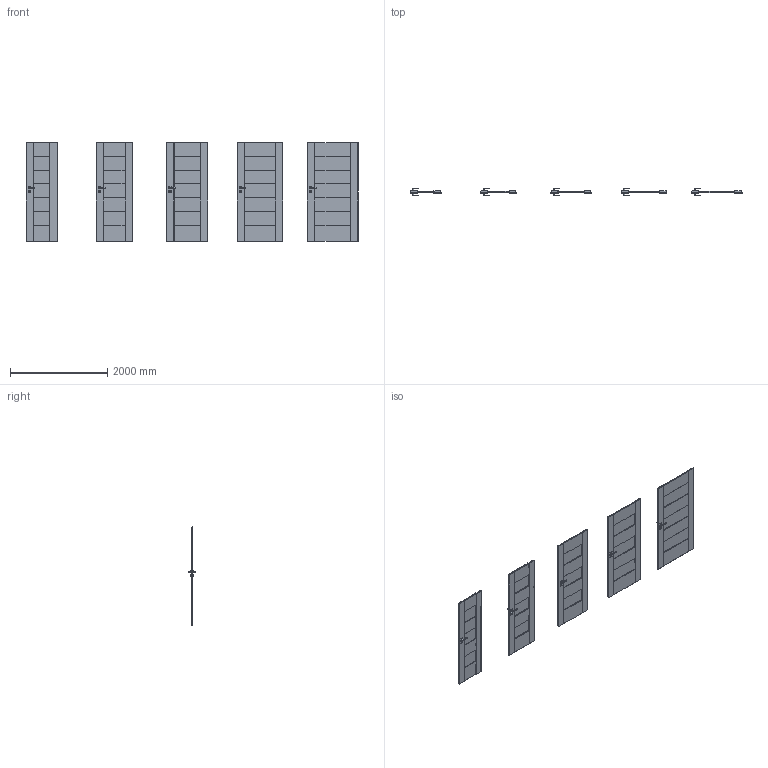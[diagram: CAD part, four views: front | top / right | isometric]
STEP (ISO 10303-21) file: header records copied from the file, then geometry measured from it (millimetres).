
FILE_DESCRIPTION(/* description */ (''),/* implementation_level */ '2;1');
FILE_NAME(/* name */ '049830_A_2-Skrzydło Koncept model K_ polska norma _PN__ przylgowe..stp',/* time_stamp */ '2024-08-27T14:28:02+02:00',/* author */ (''),/* organization */ (''),/* preprocessor_version */ 'ST-DEVELOPER v16',/* originating_system */ 'SIEMENS PLM Software NX 11.0',/* authorisation */ '');
FILE_SCHEMA (('AUTOMOTIVE_DESIGN { 1 0 10303 214 3 1 1 1 }'));
Products named in the file (1): bkni270064BBvfvg
Bounding box: 6844 x 153.13 x 2030.02 mm (x, y, z)
Volume: 241575766.6 mm3; surface area: 19477120.5 mm2
Topology: 25 solids, 25 shells, 2055 faces, 5801 edges, 3601 vertices
Faces by surface type: plane 1190, cylinder 545, bspline 180, sphere 140
Entity records: 71476 total; most frequent: CARTESIAN_POINT 19029, ORIENTED_EDGE 11322, DIRECTION 10482, EDGE_CURVE 5661, LINE 3790, VECTOR 3790, VERTEX_POINT 3601, AXIS2_PLACEMENT_3D 3346
